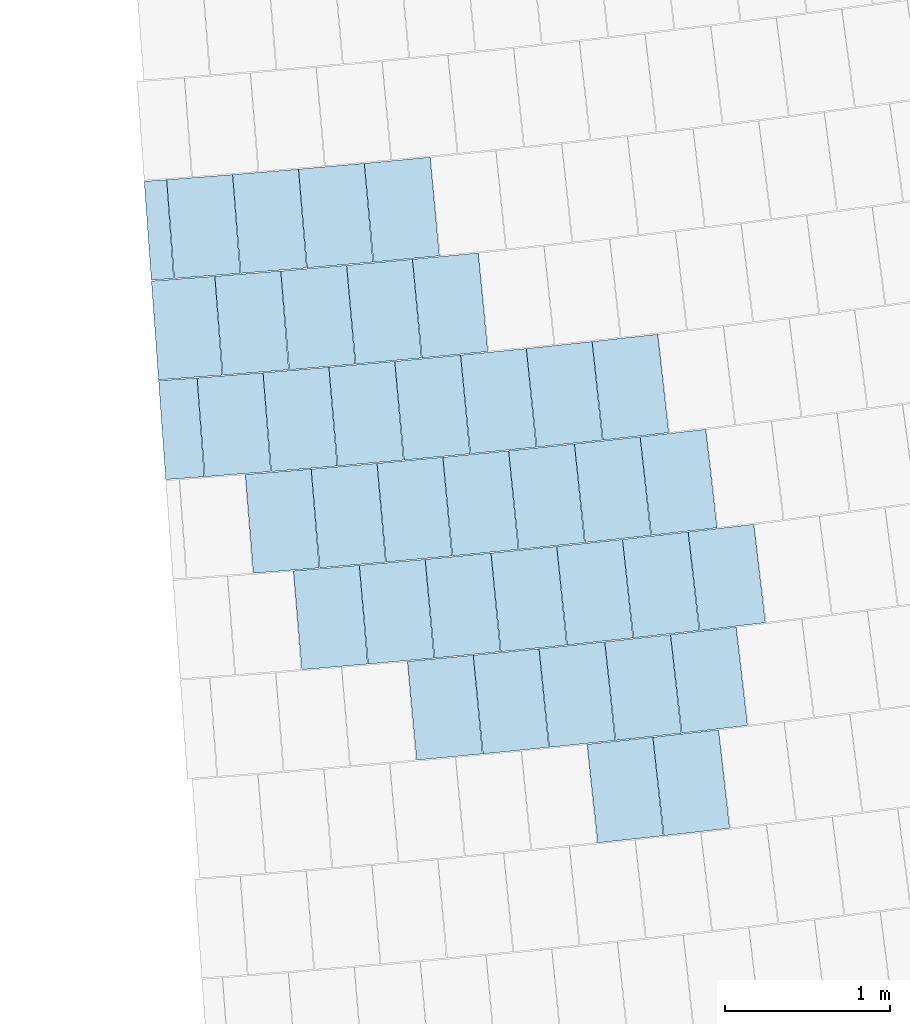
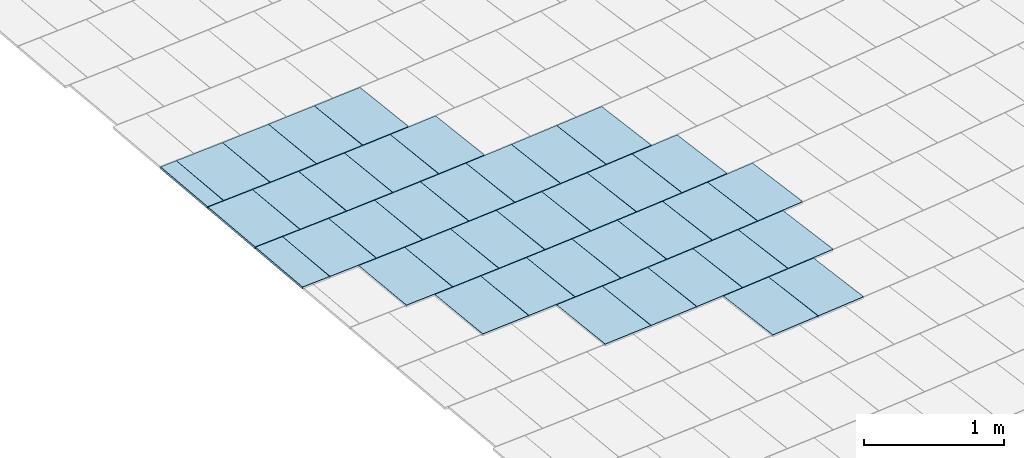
# One storey, part 25 of 438: 39 slabs.
"""IFC2X3 building model written with IfcOpenShell, lengths in millimetres."""

from ifc_helpers import new_model, entity, si_unit, converted_unit, derived_unit, direction, frame, frame_2d, origin, origin_2d_with_axis, place, context, subcontext, project, spatial, polyline, rectangle, outline, extrude, material, layer, layer_set, layer_usage, type_object, element, save


model = new_model("IFC2X3")

# Units and contexts
model_context = context("Model", 3, precision=0.01, world=origin(), true_north=direction((6.123031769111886e-17, 1.0)))
body_context = subcontext(model_context, "Body", "Model", "MODEL_VIEW")
ifc_project = project(units=[si_unit("LENGTHUNIT", "METRE", prefix="MILLI"), si_unit("AREAUNIT", "SQUARE_METRE"), si_unit("VOLUMEUNIT", "CUBIC_METRE"), converted_unit("PLANEANGLEUNIT", "DEGREE", entity("IfcRatioMeasure", 0.017453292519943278), si_unit("PLANEANGLEUNIT", "RADIAN"), dimensions=[0, 0, 0, 0, 0, 0, 0]), si_unit("MASSUNIT", "GRAM", prefix="KILO"), derived_unit("MASSDENSITYUNIT", [(si_unit("MASSUNIT", "GRAM", prefix="KILO"), 1), (si_unit("LENGTHUNIT", "METRE"), -3)]), derived_unit("MOMENTOFINERTIAUNIT", [(si_unit("LENGTHUNIT", "METRE"), 4)]), si_unit("TIMEUNIT", "SECOND"), si_unit("FREQUENCYUNIT", "HERTZ"), si_unit("THERMODYNAMICTEMPERATUREUNIT", "DEGREE_CELSIUS"), derived_unit("THERMALTRANSMITTANCEUNIT", [(si_unit("MASSUNIT", "GRAM", prefix="KILO"), 1), (si_unit("THERMODYNAMICTEMPERATUREUNIT", "KELVIN"), -1), (si_unit("TIMEUNIT", "SECOND"), -3)]), derived_unit("THERMALCONDUCTANCEUNIT", [(si_unit("MASSUNIT", "GRAM", prefix="KILO"), 1), (si_unit("LENGTHUNIT", "METRE"), 1), (si_unit("THERMODYNAMICTEMPERATUREUNIT", "KELVIN"), -1), (si_unit("TIMEUNIT", "SECOND"), -3)]), derived_unit("VOLUMETRICFLOWRATEUNIT", [(si_unit("LENGTHUNIT", "METRE"), 3), (si_unit("TIMEUNIT", "SECOND"), -1)]), derived_unit("MASSFLOWRATEUNIT", [(si_unit("MASSUNIT", "GRAM", prefix="KILO"), 1), (si_unit("TIMEUNIT", "SECOND"), -1)]), derived_unit("ROTATIONALFREQUENCYUNIT", [(si_unit("TIMEUNIT", "SECOND"), -1)]), si_unit("ELECTRICCURRENTUNIT", "AMPERE"), si_unit("ELECTRICVOLTAGEUNIT", "VOLT"), si_unit("POWERUNIT", "WATT"), converted_unit("FORCEUNIT", "KIP", entity("IfcRatioMeasure", 2.088543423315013e-05), si_unit("FORCEUNIT", "NEWTON"), dimensions=[1, 1, -2, 0, 0, 0, 0]), si_unit("ILLUMINANCEUNIT", "LUX"), si_unit("LUMINOUSFLUXUNIT", "LUMEN"), si_unit("LUMINOUSINTENSITYUNIT", "CANDELA"), derived_unit("USERDEFINED", [(si_unit("MASSUNIT", "GRAM", prefix="KILO"), -1), (si_unit("LENGTHUNIT", "METRE"), -2), (si_unit("TIMEUNIT", "SECOND"), 3), (si_unit("LUMINOUSFLUXUNIT", "LUMEN"), 1)]), derived_unit("USERDEFINED", [(si_unit("MASSUNIT", "GRAM", prefix="KILO"), 1), (si_unit("LENGTHUNIT", "METRE"), 3), (si_unit("TIMEUNIT", "SECOND"), -3), (si_unit("ELECTRICCURRENTUNIT", "AMPERE"), -2)]), derived_unit("USERDEFINED", [(si_unit("LENGTHUNIT", "METRE"), 2), (si_unit("TIMEUNIT", "SECOND"), -2)]), derived_unit("SOUNDPOWERUNIT", [(si_unit("MASSUNIT", "GRAM", prefix="KILO"), 1), (si_unit("LENGTHUNIT", "METRE"), 2), (si_unit("TIMEUNIT", "SECOND"), -3)]), derived_unit("SOUNDPRESSUREUNIT", [(si_unit("MASSUNIT", "GRAM", prefix="KILO"), 1), (si_unit("LENGTHUNIT", "METRE"), -1), (si_unit("TIMEUNIT", "SECOND"), -2)]), derived_unit("LINEARVELOCITYUNIT", [(si_unit("LENGTHUNIT", "METRE"), 1), (si_unit("TIMEUNIT", "SECOND"), -1)]), si_unit("PRESSUREUNIT", "PASCAL"), derived_unit("USERDEFINED", [(si_unit("LENGTHUNIT", "METRE"), -2), (si_unit("MASSUNIT", "GRAM", prefix="KILO"), 1), (si_unit("TIMEUNIT", "SECOND"), -2)]), derived_unit("LINEARFORCEUNIT", [(si_unit("MASSUNIT", "GRAM", prefix="KILO"), 1), (si_unit("LENGTHUNIT", "METRE"), 1), (si_unit("TIMEUNIT", "SECOND"), -2), (si_unit("LENGTHUNIT", "METRE"), -1)]), derived_unit("PLANARFORCEUNIT", [(si_unit("MASSUNIT", "GRAM", prefix="KILO"), 1), (si_unit("LENGTHUNIT", "METRE"), 1), (si_unit("TIMEUNIT", "SECOND"), -2), (si_unit("LENGTHUNIT", "METRE"), -2)]), derived_unit("SPECIFICHEATCAPACITYUNIT", [(si_unit("LENGTHUNIT", "METRE"), 2), (si_unit("TIMEUNIT", "SECOND"), -2), (si_unit("THERMODYNAMICTEMPERATUREUNIT", "KELVIN"), -1)]), derived_unit("VAPORPERMEABILITYUNIT", [(si_unit("TIMEUNIT", "SECOND"), 1), (si_unit("LENGTHUNIT", "METRE"), -1)]), derived_unit("DYNAMICVISCOSITYUNIT", [(si_unit("MASSUNIT", "GRAM", prefix="KILO"), 1), (si_unit("LENGTHUNIT", "METRE"), -1), (si_unit("TIMEUNIT", "SECOND"), -1)]), derived_unit("THERMALEXPANSIONCOEFFICIENTUNIT", [(si_unit("THERMODYNAMICTEMPERATUREUNIT", "KELVIN"), -1)])], contexts=[model_context])

# Site, building, storey
site_placement = place(None, frame((0.0, 0.0, 0.0), z_axis=(0.0, 0.0, 1.0), x_axis=(0.8191520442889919, 0.5735764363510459, 0.0)))
site = spatial("IfcSite", under=ifc_project, at=site_placement, Name="Default", CompositionType="ELEMENT")
building_placement = place(site_placement, origin())
building = spatial("IfcBuilding", under=site, at=building_placement, CompositionType="ELEMENT")
storey_placement = place(building_placement, origin())
storey = spatial("IfcBuildingStorey", under=building, at=storey_placement, Name="PLAN", CompositionType="ELEMENT", Elevation=0.0)

# Slabs
ifc_material = material(Name="Paint-01")
ifc_layer = layer(ifc_material, 20.00000000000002)
ifc_layer_set = layer_set([ifc_layer], Name="Floor:Slab-179:1000")
ifc_layer_usage = layer_usage(ifc_layer_set, "AXIS3", "POSITIVE", 0.0)
slab_type = type_object("IfcSlabType", Name="Floor:Slab-179:1000", PredefinedType="FLOOR", material=ifc_layer_set)
slab_1_placement = place(storey_placement, origin())
element("IfcSlab", 1, at=slab_1_placement, inside=storey, type_object=slab_type, material=ifc_layer_usage, Name="Floor:Slab-179:1000", ObjectType="Floor:Slab-179:1000", PredefinedType="FLOOR", context=body_context, shape_type="SweptSolid", body=[
    extrude(outline(polyline([(-300.0000010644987, -200.00000294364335), (299.9999989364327, -200.00000294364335), (300.00000106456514, 200.0000029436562), (-299.99999893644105, 200.00000294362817), (-300.0000010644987, -200.00000294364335)])), frame((-76683.7717131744, -133920.60977527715, 20.0), z_axis=(0.0, 0.0, -1.0), x_axis=(-0.48269822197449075, -0.8757867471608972, 0.0)), (0.0, 0.0, 1.0), 20.00000000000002),
])
slab_2_placement = place(storey_placement, origin())
element("IfcSlab", 2, at=slab_2_placement, inside=storey, type_object=slab_type, material=ifc_layer_usage, Name="Floor:Slab-179:1000", ObjectType="Floor:Slab-179:1000", PredefinedType="FLOOR", context=body_context, shape_type="SweptSolid", body=[
    extrude(outline(polyline([(-300.00000106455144, -200.0000029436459), (299.9999989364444, -200.0000029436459), (300.0000010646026, 200.0000029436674), (-299.99999893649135, 200.000002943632), (-300.00000106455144, -200.0000029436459)])), frame((-76331.54208324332, -134113.52217180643, 20.0), z_axis=(0.0, 0.0, -1.0), x_axis=(-0.47802240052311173, -0.8783476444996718, 0.0)), (0.0, 0.0, 1.0), 20.000000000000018),
])
slab_3_placement = place(storey_placement, origin())
element("IfcSlab", 3, at=slab_3_placement, inside=storey, type_object=slab_type, material=ifc_layer_usage, Name="Floor:Slab-179:1000", ObjectType="Floor:Slab-179:1000", PredefinedType="FLOOR", context=body_context, shape_type="SweptSolid", body=[
    extrude(outline(polyline([(-300.00000106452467, -200.0000029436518), (299.9999989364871, -200.0000029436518), (300.0000010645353, 200.00000294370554), (-299.99999893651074, 200.0000029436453), (-300.00000106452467, -200.0000029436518)])), frame((-77291.69554481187, -132886.60945371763, 20.0), z_axis=(0.0, 0.0, -1.0), x_axis=(-0.4947417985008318, -0.8690400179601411, 0.0)), (0.0, 0.0, 1.0), 20.00000000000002),
])
slab_4_placement = place(storey_placement, origin())
element("IfcSlab", 4, at=slab_4_placement, inside=storey, type_object=slab_type, material=ifc_layer_usage, Name="Floor:Slab-179:1000", ObjectType="Floor:Slab-179:1000", PredefinedType="FLOOR", context=body_context, shape_type="SweptSolid", body=[
    extrude(outline(polyline([(-300.0000010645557, -200.00000294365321), (299.9999989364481, -200.00000294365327), (300.00000106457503, 200.00000294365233), (-299.9999989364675, 200.0000029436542), (-300.0000010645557, -200.00000294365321)])), frame((-76942.146904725, -133084.3645473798, 20.0), z_axis=(0.0, 0.0, -1.0), x_axis=(-0.4900639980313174, -0.8716864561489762, 0.0)), (0.0, 0.0, 1.0), 20.00000000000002),
])
slab_5_placement = place(storey_placement, origin())
element("IfcSlab", 5, at=slab_5_placement, inside=storey, type_object=slab_type, material=ifc_layer_usage, Name="Floor:Slab-179:1000", ObjectType="Floor:Slab-179:1000", PredefinedType="FLOOR", context=body_context, shape_type="SweptSolid", body=[
    extrude(outline(polyline([(-300.0000010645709, -200.00000294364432), (299.99999893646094, -200.00000294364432), (300.000001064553, 200.0000029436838), (-299.9999989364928, 200.00000294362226), (-300.0000010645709, -200.00000294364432)])), frame((-76239.88639339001, -133474.22456157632, 20.0), z_axis=(0.0, 0.0, -1.0), x_axis=(-0.4806660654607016, -0.8769037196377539, 0.0)), (0.0, 0.0, 1.0), 20.00000000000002),
])
slab_6_placement = place(storey_placement, origin())
element("IfcSlab", 6, at=slab_6_placement, inside=storey, type_object=slab_type, material=ifc_layer_usage, Name="Floor:Slab-179:1000", ObjectType="Floor:Slab-179:1000", PredefinedType="FLOOR", context=body_context, shape_type="SweptSolid", body=[
    extrude(outline(polyline([(-300.0000010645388, -200.00000294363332), (299.99999893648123, -200.00000294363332), (300.0000010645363, 200.00000294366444), (-299.99999893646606, 200.0000029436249), (-300.0000010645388, -200.00000294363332)])), frame((-76591.54047844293, -133280.23813596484, 20.0), z_axis=(0.0, 0.0, -1.0), x_axis=(-0.4853720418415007, -0.874307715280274, 0.0)), (0.0, 0.0, 1.0), 20.00000000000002),
])
slab_7_placement = place(storey_placement, origin())
element("IfcSlab", 7, at=slab_7_placement, inside=storey, type_object=slab_type, material=ifc_layer_usage, Name="Floor:Slab-179:1000", ObjectType="Floor:Slab-179:1000", PredefinedType="FLOOR", context=body_context, shape_type="SweptSolid", body=[
    extrude(outline(polyline([(-300.000001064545, -200.00000294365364), (299.9999989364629, -200.00000294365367), (300.0000010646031, 200.00000294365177), (-299.99999893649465, 200.00000294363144), (-300.000001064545, -200.00000294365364)])), frame((-75887.19480725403, -133666.31822082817, 20.0), z_axis=(0.0, 0.0, -1.0), x_axis=(-0.47594620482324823, -0.879474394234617, 0.0)), (0.0, 0.0, 1.0), 20.00000000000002),
])
slab_8_placement = place(storey_placement, origin())
element("IfcSlab", 8, at=slab_8_placement, inside=storey, type_object=slab_type, material=ifc_layer_usage, Name="Floor:Slab-179:1000", ObjectType="Floor:Slab-179:1000", PredefinedType="FLOOR", context=body_context, shape_type="SweptSolid", body=[
    extrude(outline(polyline([(-300.00000106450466, -200.00000294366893), (299.9999989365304, -200.00000294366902), (300.0000010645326, 200.00000294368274), (-299.99999893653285, 200.00000294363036), (-300.00000106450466, -200.00000294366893)])), frame((-77545.76123497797, -132042.63709512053, 20.0), z_axis=(0.0, 0.0, -1.0), x_axis=(-0.5022078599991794, -0.864746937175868, 0.0)), (0.0, 0.0, 1.0), 20.00000000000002),
])
slab_9_placement = place(storey_placement, origin())
element("IfcSlab", 9, at=slab_9_placement, inside=storey, type_object=slab_type, material=ifc_layer_usage, Name="Floor:Slab-179:1000", ObjectType="Floor:Slab-179:1000", PredefinedType="FLOOR", context=body_context, shape_type="SweptSolid", body=[
    extrude(outline(polyline([(-300.000001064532, -200.00000294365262), (299.99999893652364, -200.00000294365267), (300.00000106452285, 200.0000029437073), (-299.99999893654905, 200.0000029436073), (-300.000001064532, -200.00000294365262)])), frame((-76498.97816059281, -132639.2392187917, 20.0), z_axis=(0.0, 0.0, -1.0), x_axis=(-0.48808504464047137, -0.8727960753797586, 0.0)), (0.0, 0.0, 1.0), 20.00000000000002),
])
slab_10_placement = place(storey_placement, origin())
element("IfcSlab", 10, at=slab_10_placement, inside=storey, type_object=slab_type, material=ifc_layer_usage, Name="Floor:Slab-179:1000", ObjectType="Floor:Slab-179:1000", PredefinedType="FLOOR", context=body_context, shape_type="SweptSolid", body=[
    extrude(outline(polyline([(-300.00000106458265, -200.00000294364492), (299.99999893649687, -200.00000294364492), (300.0000010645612, 200.00000294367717), (-299.9999989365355, 200.0000029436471), (-300.00000106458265, -200.00000294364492)])), frame((-77197.91283357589, -132243.394195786, 20.0), z_axis=(0.0, 0.0, -1.0), x_axis=(-0.49751481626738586, -0.8674554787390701, 0.0)), (0.0, 0.0, 1.0), 20.00000000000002),
])
slab_11_placement = place(storey_placement, origin())
element("IfcSlab", 11, at=slab_11_placement, inside=storey, type_object=slab_type, material=ifc_layer_usage, Name="Floor:Slab-179:1000", ObjectType="Floor:Slab-179:1000", PredefinedType="FLOOR", context=body_context, shape_type="SweptSolid", body=[
    extrude(outline(polyline([(-300.00000106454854, -200.00000294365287), (299.9999989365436, -200.00000294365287), (300.00000106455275, 200.00000294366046), (-299.9999989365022, 200.0000029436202), (-300.00000106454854, -200.00000294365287)])), frame((-76147.91241033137, -132834.3155187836, 20.0), z_axis=(0.0, 0.0, -1.0), x_axis=(-0.48334859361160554, -0.8754279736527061, 0.0)), (0.0, 0.0, 1.0), 20.00000000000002),
])
slab_12_placement = place(storey_placement, origin())
element("IfcSlab", 12, at=slab_12_placement, inside=storey, type_object=slab_type, material=ifc_layer_usage, Name="Floor:Slab-179:1000", ObjectType="Floor:Slab-179:1000", PredefinedType="FLOOR", context=body_context, shape_type="SweptSolid", body=[
    extrude(outline(polyline([(-300.0000010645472, -200.00000294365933), (299.9999989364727, -200.0000029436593), (300.0000010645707, 200.00000294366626), (-299.99999893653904, 200.0000029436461), (-300.0000010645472, -200.00000294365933)])), frame((-75795.79478394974, -133027.4866890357, 20.0), z_axis=(0.0, 0.0, -1.0), x_axis=(-0.47859795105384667, -0.8780341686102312, 0.0)), (0.0, 0.0, 1.0), 20.00000000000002),
])
slab_13_placement = place(storey_placement, origin())
element("IfcSlab", 13, at=slab_13_placement, inside=storey, type_object=slab_type, material=ifc_layer_usage, Name="Floor:Slab-179:1000", ObjectType="Floor:Slab-179:1000", PredefinedType="FLOOR", context=body_context, shape_type="SweptSolid", body=[
    extrude(outline(polyline([(-300.00000106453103, -200.00000294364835), (299.9999989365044, -200.00000294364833), (300.00000106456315, 200.00000294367), (-299.9999989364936, 200.00000294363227), (-300.00000106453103, -200.00000294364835)])), frame((-76848.98172714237, -132442.26351666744, 20.0), z_axis=(0.0, 0.0, -1.0), x_axis=(-0.492807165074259, -0.8701385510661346, 0.0)), (0.0, 0.0, 1.0), 20.00000000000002),
])
slab_14_placement = place(storey_placement, origin())
element("IfcSlab", 14, at=slab_14_placement, inside=storey, type_object=slab_type, material=ifc_layer_usage, Name="Floor:Slab-179:1000", ObjectType="Floor:Slab-179:1000", PredefinedType="FLOOR", context=body_context, shape_type="SweptSolid", body=[
    extrude(outline(polyline([(-300.00000106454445, -200.00000294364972), (299.9999989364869, -200.00000294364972), (300.00000106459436, 200.00000294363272), (-299.99999893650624, 200.00000294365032), (-300.00000106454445, -200.00000294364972)])), frame((-75442.63561992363, -133218.74705787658, 20.0), z_axis=(0.0, 0.0, -1.0), x_axis=(-0.4738332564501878, -0.8806145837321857, 0.0)), (0.0, 0.0, 1.0), 20.00000000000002),
])
slab_15_placement = place(storey_placement, origin())
element("IfcSlab", 15, at=slab_15_placement, inside=storey, type_object=slab_type, material=ifc_layer_usage, Name="Floor:Slab-179:1000", ObjectType="Floor:Slab-179:1000", PredefinedType="FLOOR", context=body_context, shape_type="SweptSolid", body=[
    extrude(outline(polyline([(-300.0000010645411, -200.0000029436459), (299.99999893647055, -200.0000029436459), (300.00000106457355, 200.0000029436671), (-299.99999893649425, 200.0000029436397), (-300.0000010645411, -200.0000029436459)])), frame((-77450.96332903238, -131397.60452067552, 20.0), z_axis=(0.0, 0.0, -1.0), x_axis=(-0.5050513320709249, -0.8630893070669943, 0.0)), (0.0, 0.0, 1.0), 20.00000000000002),
])
slab_16_placement = place(storey_placement, origin())
element("IfcSlab", 16, at=slab_16_placement, inside=storey, type_object=slab_type, material=ifc_layer_usage, Name="Floor:Slab-179:1000", ObjectType="Floor:Slab-179:1000", PredefinedType="FLOOR", context=body_context, shape_type="SweptSolid", body=[
    extrude(outline(polyline([(-300.0000010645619, -200.00000294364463), (299.9999989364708, -200.00000294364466), (300.00000106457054, 200.00000294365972), (-299.9999989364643, 200.000002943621), (-300.0000010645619, -200.00000294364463)])), frame((-76755.46173784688, -131799.50438150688, 20.0), z_axis=(0.0, 0.0, -1.0), x_axis=(-0.49559065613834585, -0.868556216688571, 0.0)), (0.0, 0.0, 1.0), 20.00000000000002),
])
slab_17_placement = place(storey_placement, origin())
element("IfcSlab", 17, at=slab_17_placement, inside=storey, type_object=slab_type, material=ifc_layer_usage, Name="Floor:Slab-179:1000", ObjectType="Floor:Slab-179:1000", PredefinedType="FLOOR", context=body_context, shape_type="SweptSolid", body=[
    extrude(outline(polyline([(-300.00000106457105, -200.00000294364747), (299.9999989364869, -200.00000294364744), (300.00000106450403, 200.00000294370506), (-299.9999989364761, 200.0000029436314), (-300.00000106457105, -200.00000294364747)])), frame((-76406.07454519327, -131997.59850988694, 20.0), z_axis=(0.0, 0.0, -1.0), x_axis=(-0.49083805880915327, -0.8712508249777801, 0.0)), (0.0, 0.0, 1.0), 20.000000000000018),
])
slab_18_placement = place(storey_placement, origin())
element("IfcSlab", 18, at=slab_18_placement, inside=storey, type_object=slab_type, material=ifc_layer_usage, Name="Floor:Slab-179:1000", ObjectType="Floor:Slab-179:1000", PredefinedType="FLOOR", context=body_context, shape_type="SweptSolid", body=[
    extrude(rectangle(XDim=599.9999568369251, YDim=399.99997711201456, at=frame_2d((-4.348521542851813e-12, -7.503331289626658e-12), x_axis=(1.0, 0.0))), frame((-77103.7008464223, -131599.62699105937, 20.0), z_axis=(0.0, 0.0, -1.0), x_axis=(-0.4999999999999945, -0.8660254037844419, 0.0)), (0.0, 0.0, 1.0), 20.000000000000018),
])
slab_19_placement = place(storey_placement, origin())
element("IfcSlab", 19, at=slab_19_placement, inside=storey, type_object=slab_type, material=ifc_layer_usage, Name="Floor:Slab-179:1000", ObjectType="Floor:Slab-179:1000", PredefinedType="FLOOR", context=body_context, shape_type="SweptSolid", body=[
    extrude(outline(polyline([(-300.0000010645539, -200.0000029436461), (299.9999989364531, -200.0000029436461), (300.0000010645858, 200.0000029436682), (-299.9999989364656, 200.00000294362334), (-300.0000010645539, -200.0000029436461)])), frame((-75704.07950816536, -132388.04559908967, 20.0), z_axis=(0.0, 0.0, -1.0), x_axis=(-0.4812890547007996, -0.8765619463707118, 0.0)), (0.0, 0.0, 1.0), 20.00000000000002),
])
slab_20_placement = place(storey_placement, origin())
element("IfcSlab", 20, at=slab_20_placement, inside=storey, type_object=slab_type, material=ifc_layer_usage, Name="Floor:Slab-179:1000", ObjectType="Floor:Slab-179:1000", PredefinedType="FLOOR", context=body_context, shape_type="SweptSolid", body=[
    extrude(outline(polyline([(-300.0000010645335, -200.00000294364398), (299.9999989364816, -200.00000294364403), (300.00000106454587, 200.00000294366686), (-299.99999893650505, 200.00000294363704), (-300.0000010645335, -200.00000294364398)])), frame((-75351.49261700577, -132580.38690581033, 20.0), z_axis=(0.0, 0.0, -1.0), x_axis=(-0.47649293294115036, -0.8791783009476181, 0.0)), (0.0, 0.0, 1.0), 20.00000000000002),
])
slab_21_placement = place(storey_placement, origin())
element("IfcSlab", 21, at=slab_21_placement, inside=storey, type_object=slab_type, material=ifc_layer_usage, Name="Floor:Slab-179:1000", ObjectType="Floor:Slab-179:1000", PredefinedType="FLOOR", context=body_context, shape_type="SweptSolid", body=[
    extrude(outline(polyline([(-300.0000010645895, -200.00000294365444), (299.99999893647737, -200.00000294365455), (300.0000010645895, 200.00000294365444), (-299.9999989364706, 200.00000294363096), (-300.0000010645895, -200.00000294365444)])), frame((-76055.61031506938, -132193.7808676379, 20.0), z_axis=(0.0, 0.0, -1.0), x_axis=(-0.48607081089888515, -0.8739194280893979, 0.0)), (0.0, 0.0, 1.0), 20.00000000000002),
])
slab_22_placement = place(storey_placement, origin())
element("IfcSlab", 22, at=slab_22_placement, inside=storey, type_object=slab_type, material=ifc_layer_usage, Name="Floor:Slab-179:1000", ObjectType="Floor:Slab-179:1000", PredefinedType="FLOOR", context=body_context, shape_type="SweptSolid", body=[
    extrude(outline(polyline([(-300.00000106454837, -200.00000294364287), (299.999998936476, -200.0000029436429), (300.0000010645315, 200.0000029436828), (-299.9999989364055, 200.00000294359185), (-300.00000106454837, -200.00000294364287)])), frame((-77009.22996604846, -130954.92439885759, 20.0), z_axis=(0.0, 0.0, -1.0), x_axis=(-0.5031835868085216, -0.864179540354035, 0.0)), (0.0, 0.0, 1.0), 20.00000000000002),
])
slab_23_placement = place(storey_placement, origin())
element("IfcSlab", 23, at=slab_23_placement, inside=storey, type_object=slab_type, material=ifc_layer_usage, Name="Floor:Slab-179:1000", ObjectType="Floor:Slab-179:1000", PredefinedType="FLOOR", context=body_context, shape_type="SweptSolid", body=[
    extrude(outline(polyline([(-300.0000010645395, -200.00000294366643), (299.9999989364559, -200.0000029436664), (300.00000106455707, 200.00000294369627), (-299.9999989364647, 200.00000294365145), (-300.0000010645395, -200.00000294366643)])), frame((-77355.77067082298, -130751.86484117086, 20.0), z_axis=(0.0, 0.0, -1.0), x_axis=(-0.5079365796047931, -0.8613944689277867, 0.0)), (0.0, 0.0, 1.0), 20.00000000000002),
])
slab_24_placement = place(storey_placement, origin())
element("IfcSlab", 24, at=slab_24_placement, inside=storey, type_object=slab_type, material=ifc_layer_usage, Name="Floor:Slab-179:1000", ObjectType="Floor:Slab-179:1000", PredefinedType="FLOOR", context=body_context, shape_type="SweptSolid", body=[
    extrude(outline(polyline([(-300.0000010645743, -200.0000029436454), (299.99999893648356, -200.00000294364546), (300.00000106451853, 200.00000294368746), (-299.99999893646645, 200.00000294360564), (-300.0000010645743, -200.0000029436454)])), frame((-76661.57589671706, -131156.07183759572, 20.0), z_axis=(0.0, 0.0, -1.0), x_axis=(-0.49841532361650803, -0.8669383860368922, 0.0)), (0.0, 0.0, 1.0), 20.000000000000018),
])
slab_25_placement = place(storey_placement, origin())
element("IfcSlab", 25, at=slab_25_placement, inside=storey, type_object=slab_type, material=ifc_layer_usage, Name="Floor:Slab-179:1000", ObjectType="Floor:Slab-179:1000", PredefinedType="FLOOR", context=body_context, shape_type="SweptSolid", body=[
    extrude(outline(polyline([(-300.00000062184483, -116.78610565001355), (299.9999993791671, -116.78610565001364), (300.0000006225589, 116.92424393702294), (-299.99999937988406, 116.64796736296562), (-300.00000062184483, -116.78610565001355)])), frame((-77629.74143524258, -130589.5609412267, 20.0), z_axis=(0.0, 0.0, -1.0), x_axis=(-0.5126741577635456, -0.8585832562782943, 0.0)), (0.0, 0.0, 1.0), 20.00000000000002),
])
slab_26_placement = place(storey_placement, origin())
element("IfcSlab", 26, at=slab_26_placement, inside=storey, type_object=slab_type, material=ifc_layer_usage, Name="Floor:Slab-179:1000", ObjectType="Floor:Slab-179:1000", PredefinedType="FLOOR", context=body_context, shape_type="SweptSolid", body=[
    extrude(outline(polyline([(-300.00000106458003, -200.00000294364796), (299.9999989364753, -200.00000294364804), (300.00000106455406, 200.00000294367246), (-299.99999893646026, 200.00000294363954), (-300.00000106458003, -200.00000294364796)])), frame((-75962.96989966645, -131552.605999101, 20.0), z_axis=(0.0, 0.0, -1.0), x_axis=(-0.48883356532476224, -0.8723770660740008, 0.0)), (0.0, 0.0, 1.0), 20.000000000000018),
])
slab_27_placement = place(storey_placement, origin())
element("IfcSlab", 27, at=slab_27_placement, inside=storey, type_object=slab_type, material=ifc_layer_usage, Name="Floor:Slab-179:1000", ObjectType="Floor:Slab-179:1000", PredefinedType="FLOOR", context=body_context, shape_type="SweptSolid", body=[
    extrude(outline(polyline([(-300.0000010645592, -200.00000294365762), (299.99999893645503, -200.0000029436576), (300.0000010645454, 200.0000029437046), (-299.9999989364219, 200.00000294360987), (-300.0000010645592, -200.00000294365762)])), frame((-75260.03748298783, -131941.41919066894, 20.0), z_axis=(0.0, 0.0, -1.0), x_axis=(-0.47919246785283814, -0.8777098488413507, 0.0)), (0.0, 0.0, 1.0), 20.00000000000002),
])
slab_28_placement = place(storey_placement, origin())
element("IfcSlab", 28, at=slab_28_placement, inside=storey, type_object=slab_type, material=ifc_layer_usage, Name="Floor:Slab-179:1000", ObjectType="Floor:Slab-179:1000", PredefinedType="FLOOR", context=body_context, shape_type="SweptSolid", body=[
    extrude(outline(polyline([(-300.00000106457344, -200.0000029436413), (299.99999893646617, -200.0000029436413), (300.00000106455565, 200.0000029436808), (-299.9999989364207, 200.00000294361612), (-300.00000106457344, -200.0000029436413)])), frame((-75612.03917293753, -131747.98068802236, 20.0), z_axis=(0.0, 0.0, -1.0), x_axis=(-0.48402036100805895, -0.8750567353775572, 0.0)), (0.0, 0.0, 1.0), 20.00000000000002),
])
slab_29_placement = place(storey_placement, origin())
element("IfcSlab", 29, at=slab_29_placement, inside=storey, type_object=slab_type, material=ifc_layer_usage, Name="Floor:Slab-179:1000", ObjectType="Floor:Slab-179:1000", PredefinedType="FLOOR", context=body_context, shape_type="SweptSolid", body=[
    extrude(outline(polyline([(-300.0000010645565, -200.0000029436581), (299.9999989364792, -200.00000294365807), (300.0000010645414, 200.00000294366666), (-299.9999989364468, 200.00000294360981), (-300.0000010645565, -200.0000029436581)])), frame((-76312.81901328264, -131355.30105305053, 20.0), z_axis=(0.0, 0.0, -1.0), x_axis=(-0.4936319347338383, -0.8696709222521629, 0.0)), (0.0, 0.0, 1.0), 20.00000000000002),
])
slab_30_placement = place(storey_placement, origin())
element("IfcSlab", 30, at=slab_30_placement, inside=storey, type_object=slab_type, material=ifc_layer_usage, Name="Floor:Slab-179:1000", ObjectType="Floor:Slab-179:1000", PredefinedType="FLOOR", context=body_context, shape_type="SweptSolid", body=[
    extrude(outline(polyline([(-300.00000106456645, -200.0000029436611), (299.999998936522, -200.00000294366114), (300.00000106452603, 200.00000294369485), (-299.99999893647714, 200.00000294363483), (-300.00000106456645, -200.0000029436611)])), frame((-76914.30640878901, -130309.63807608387, 20.0), z_axis=(0.0, 0.0, -1.0), x_axis=(-0.5060810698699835, -0.8624859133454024, 0.0)), (0.0, 0.0, 1.0), 20.00000000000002),
])
slab_31_placement = place(storey_placement, origin())
element("IfcSlab", 31, at=slab_31_placement, inside=storey, type_object=slab_type, material=ifc_layer_usage, Name="Floor:Slab-179:1000", ObjectType="Floor:Slab-179:1000", PredefinedType="FLOOR", context=body_context, shape_type="SweptSolid", body=[
    extrude(rectangle(XDim=599.9993419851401, YDim=399.99956721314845, at=frame_2d((1.503508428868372e-11, -8.65441052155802e-12), x_axis=(1.0, 0.0))), frame((-76567.07604586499, -130512.42878091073, 20.0), z_axis=(0.0, 0.0, -1.0), x_axis=(-0.4999999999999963, -0.8660254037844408, 0.0)), (0.0, 0.0, 1.0), 20.00000000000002),
])
slab_32_placement = place(storey_placement, origin())
element("IfcSlab", 32, at=slab_32_placement, inside=storey, type_object=slab_type, material=ifc_layer_usage, Name="Floor:Slab-179:1000", ObjectType="Floor:Slab-179:1000", PredefinedType="FLOOR", context=body_context, shape_type="SweptSolid", body=[
    extrude(outline(polyline([(-300.0000010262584, -192.7995731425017), (299.99999897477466, -192.79957314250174), (300.0000010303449, 193.5696408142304), (-299.9999989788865, 192.0295054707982), (-300.0000010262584, -192.7995731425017)])), frame((-77253.98094110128, -130109.0800111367, 20.0), z_axis=(0.0, 0.0, -1.0), x_axis=(-0.5108644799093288, -0.8596612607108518, 0.0)), (0.0, 0.0, 1.0), 20.000000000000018),
])
slab_33_placement = place(storey_placement, origin())
element("IfcSlab", 33, at=slab_33_placement, inside=storey, type_object=slab_type, material=ifc_layer_usage, Name="Floor:Slab-179:1000", ObjectType="Floor:Slab-179:1000", PredefinedType="FLOOR", context=body_context, shape_type="SweptSolid", body=[
    extrude(outline(polyline([(-300.00000106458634, -200.00000294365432), (299.99999893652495, -200.00000294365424), (300.0000010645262, 200.00000294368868), (-299.9999989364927, 200.00000294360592), (-300.00000106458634, -200.00000294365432)])), frame((-76219.20052177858, -130712.33143321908, 20.0), z_axis=(0.0, 0.0, -1.0), x_axis=(-0.4964675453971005, -0.868055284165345, 0.0)), (0.0, 0.0, 1.0), 20.00000000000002),
])
slab_34_placement = place(storey_placement, origin())
element("IfcSlab", 34, at=slab_34_placement, inside=storey, type_object=slab_type, material=ifc_layer_usage, Name="Floor:Slab-179:1000", ObjectType="Floor:Slab-179:1000", PredefinedType="FLOOR", context=body_context, shape_type="SweptSolid", body=[
    extrude(outline(polyline([(-300.00000106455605, -200.00000294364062), (299.9999989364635, -200.0000029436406), (300.00000106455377, 200.00000294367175), (-299.99999893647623, 200.00000294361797), (-300.00000106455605, -200.00000294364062)])), frame((-75869.98054840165, -130910.77585462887, 20.0), z_axis=(0.0, 0.0, -1.0), x_axis=(-0.4916377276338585, -0.8707998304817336, 0.0)), (0.0, 0.0, 1.0), 20.00000000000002),
])
slab_35_placement = place(storey_placement, origin())
element("IfcSlab", 35, at=slab_35_placement, inside=storey, type_object=slab_type, material=ifc_layer_usage, Name="Floor:Slab-179:1000", ObjectType="Floor:Slab-179:1000", PredefinedType="FLOOR", context=body_context, shape_type="SweptSolid", body=[
    extrude(outline(polyline([(-300.0, -67.97816080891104), (300.0, -67.97816080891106), (300.0, 67.71019561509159), (-300.0, 68.24612600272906), (-300.0, -67.97816080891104)])), frame((-77050.89102729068, -129526.03527109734, 20.0), z_axis=(0.0, 0.0, -1.0), x_axis=(-0.5138359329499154, -0.8578884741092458, 0.0)), (0.0, 0.0, 1.0), 20.00000000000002),
])
slab_36_placement = place(storey_placement, origin())
element("IfcSlab", 36, at=slab_36_placement, inside=storey, type_object=slab_type, material=ifc_layer_usage, Name="Floor:Slab-179:1000", ObjectType="Floor:Slab-179:1000", PredefinedType="FLOOR", context=body_context, shape_type="SweptSolid", body=[
    extrude(outline(polyline([(-300.0000010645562, -200.00000294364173), (299.99999893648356, -200.00000294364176), (300.0000010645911, 200.0000029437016), (-299.999998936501, 200.0000029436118), (-300.0000010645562, -200.00000294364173)])), frame((-76472.66027280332, -129867.12294792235, 20.0), z_axis=(0.0, 0.0, -1.0), x_axis=(-0.5041917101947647, -0.8635917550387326, 0.0)), (0.0, 0.0, 1.0), 20.00000000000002),
])
slab_37_placement = place(storey_placement, origin())
element("IfcSlab", 37, at=slab_37_placement, inside=storey, type_object=slab_type, material=ifc_layer_usage, Name="Floor:Slab-179:1000", ObjectType="Floor:Slab-179:1000", PredefinedType="FLOOR", context=body_context, shape_type="SweptSolid", body=[
    extrude(rectangle(XDim=599.9998288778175, YDim=399.99989180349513, at=origin_2d_with_axis()), frame((-76125.32827789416, -130068.42965585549, 20.0), z_axis=(0.0, 0.0, -1.0), x_axis=(-0.5000000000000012, -0.8660254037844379, 0.0)), (0.0, 0.0, 1.0), 20.00000000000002),
])
slab_38_placement = place(storey_placement, origin())
element("IfcSlab", 38, at=slab_38_placement, inside=storey, type_object=slab_type, material=ifc_layer_usage, Name="Floor:Slab-179:1000", ObjectType="Floor:Slab-179:1000", PredefinedType="FLOOR", context=body_context, shape_type="SweptSolid", body=[
    extrude(outline(polyline([(-300.0000010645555, -200.0000029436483), (299.9999989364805, -200.0000029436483), (300.0000010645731, 200.00000294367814), (-299.99999893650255, 200.000002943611), (-300.0000010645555, -200.0000029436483)])), frame((-76818.97838301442, -129663.62880108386, 20.0), z_axis=(0.0, 0.0, -1.0), x_axis=(-0.5090218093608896, -0.860753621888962, 0.0)), (0.0, 0.0, 1.0), 20.00000000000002),
])
slab_39_placement = place(storey_placement, origin())
element("IfcSlab", 39, at=slab_39_placement, inside=storey, type_object=slab_type, material=ifc_layer_usage, Name="Floor:Slab-179:1000", ObjectType="Floor:Slab-179:1000", PredefinedType="FLOOR", context=body_context, shape_type="SweptSolid", body=[
    extrude(outline(polyline([(-300.0000010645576, -200.00000294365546), (299.99999893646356, -200.00000294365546), (300.00000106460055, 200.00000294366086), (-299.99999893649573, 200.00000294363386), (-300.0000010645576, -200.00000294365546)])), frame((-75776.63121793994, -130268.27490914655, 20.0), z_axis=(0.0, 0.0, -1.0), x_axis=(-0.4944841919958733, -0.8691866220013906, 0.0)), (0.0, 0.0, 1.0), 20.00000000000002),
])

save(model, "model.ifc")
